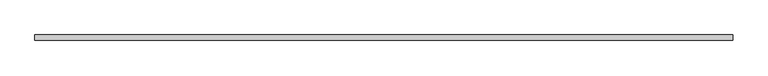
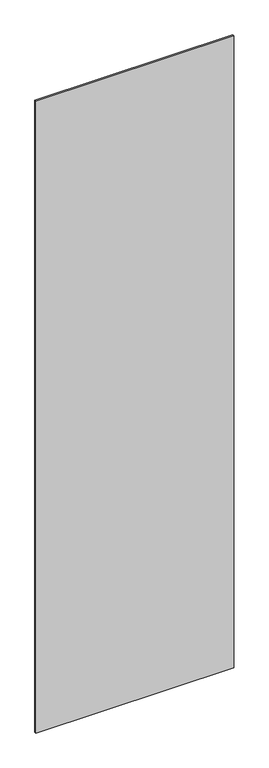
"""IFC4 building model written with IfcOpenShell, lengths in millimetres: plate geometry, システム パネル : 標準."""

from ifc_helpers import new_model, si_unit, origin, origin_with_axes, place, context, project, spatial, polyline, outline, extrude, source, transform, mapped, element, save


def plate_96bf0072(model_context):
    return source(origin(), model_context, "Body", "SweptSolid", [
        extrude(outline(polyline([(646.1999103, -5.0), (-646.1999103, -5.0), (-646.1999103, 5.0), (646.1999103, 5.0), (646.1999103, -5.0)])), origin_with_axes(), (0.0, 0.0, 1.0), 4360.0),
    ])


if __name__ == "__main__":
    model = new_model("IFC4")
    model_context = context("Model", 3, world=origin())
    ifc_project = project(units=[si_unit("LENGTHUNIT", "METRE", prefix="MILLI")], contexts=[model_context])
    site = spatial("IfcSite", under=ifc_project)
    building = spatial("IfcBuilding", under=site)
    placement = place(None, origin())
    plate_shape = plate_96bf0072(model_context)
    element("IfcPlate", 1, ObjectType="システム パネル : 標準", at=placement, inside=building, context=model_context, shape_type="MappedRepresentation", body=[
        mapped(plate_shape, transform((0.0, 0.0, 0.0), x_axis=(1.0, 0.0, 0.0), y_axis=(0.0, 1.0, 0.0), z_axis=(0.0, 0.0, 1.0))),
    ])
    save(model, "model.ifc")
